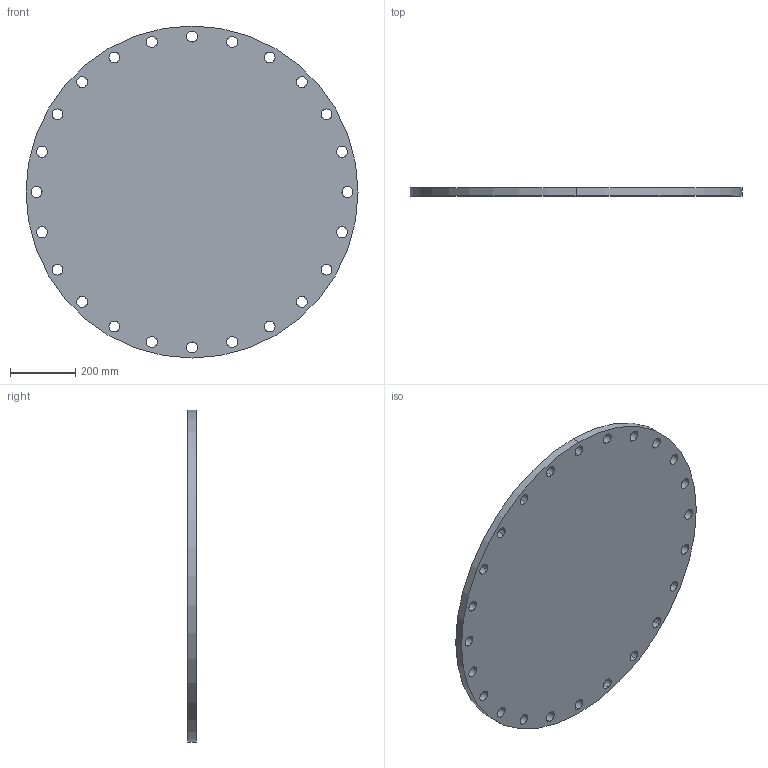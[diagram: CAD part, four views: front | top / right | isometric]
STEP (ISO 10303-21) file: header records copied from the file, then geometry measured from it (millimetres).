
FILE_DESCRIPTION (( 'STEP AP203' ), '1' );
FILE_NAME ('3D_R187_PN10_DN800_176661290_176662290.STEP', '2024-07-10T09:41:16', ( '' ), ( '' ), 'SwSTEP 2.0', 'SolidWorks 2024', '' );
FILE_SCHEMA (( 'CONFIG_CONTROL_DESIGN' ));
Length unit declared in the file: millimetre
Products named in the file (1): 3D_R187_PN10_DN800_176661290_176662290
Bounding box: 1015 x 25 x 1015 mm (x, y, z)
Volume: 19715241.4 mm3; surface area: 1719140.8 mm2
Topology: 1 solids, 1 shells, 52 faces, 150 edges, 100 vertices
Faces by surface type: cylinder 50, plane 2
Entity records: 1947 total; most frequent: DIRECTION 356, CARTESIAN_POINT 303, ORIENTED_EDGE 300, AXIS2_PLACEMENT_3D 153, EDGE_CURVE 150, VERTEX_POINT 100, EDGE_LOOP 100, CIRCLE 100
